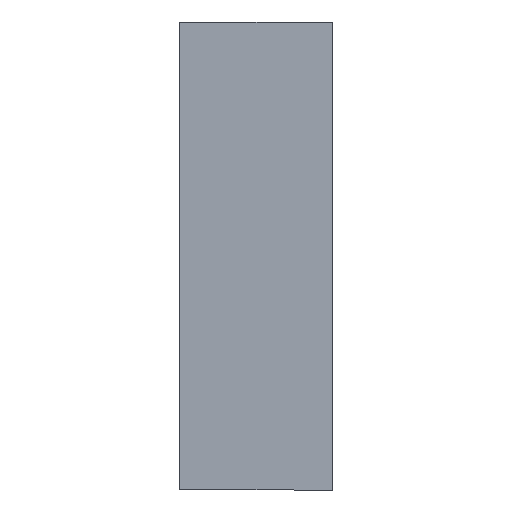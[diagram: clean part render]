
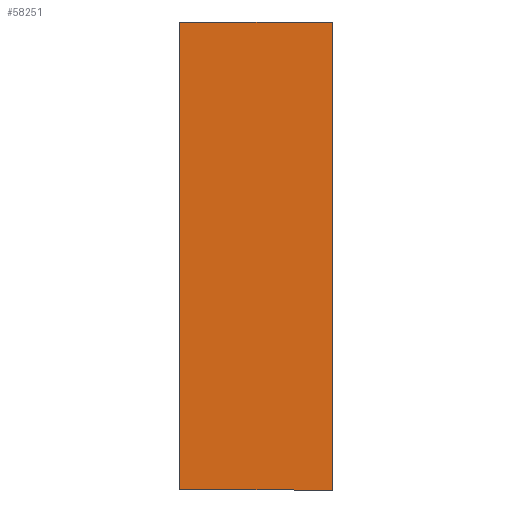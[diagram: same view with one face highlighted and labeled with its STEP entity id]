
A CAD part, left-side view. The second image highlights one B-rep face of the part: STEP entity #58251.
In plain terms, the highlighted planar face has unit normal (-1, 0, 0).
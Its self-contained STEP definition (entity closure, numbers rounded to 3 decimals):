
#58121 = EDGE_CURVE ( 'NONE', #58244, #58123, #123285, .T. ) ;
#58123 = VERTEX_POINT ( 'NONE', #123281 ) ;
#58124 = ORIENTED_EDGE ( 'NONE', *, *, #58250, .T. ) ;
#58125 = ORIENTED_EDGE ( 'NONE', *, *, #58127, .F. ) ;
#58127 = EDGE_CURVE ( 'NONE', #58128, #58248, #123280, .T. ) ;
#58128 = VERTEX_POINT ( 'NONE', #123276 ) ;
#58129 = ORIENTED_EDGE ( 'NONE', *, *, #58130, .F. ) ;
#58130 = EDGE_CURVE ( 'NONE', #58123, #58128, #123275, .T. ) ;
#58244 = VERTEX_POINT ( 'NONE', #123611 ) ;
#58248 = VERTEX_POINT ( 'NONE', #123606 ) ;
#58250 = EDGE_CURVE ( 'NONE', #58244, #58248, #123605, .T. ) ;
#58251 = ADVANCED_FACE ( 'NONE', ( #123598 ), #123597, .T. ) ;
#58253 = EDGE_LOOP ( 'NONE', ( #58255, #58124, #58125, #58129 ) ) ;
#58255 = ORIENTED_EDGE ( 'NONE', *, *, #58121, .F. ) ;
#123272 = DIRECTION ( 'NONE',  ( 0., -1., 0. ) ) ;
#123273 = VECTOR ( 'NONE', #123272, 39.37 ) ;
#123274 = CARTESIAN_POINT ( 'NONE',  ( -7.26, 18.243, 3.4 ) ) ;
#123275 = LINE ( 'NONE', #123274, #123273 ) ;
#123276 = CARTESIAN_POINT ( 'NONE',  ( -7.26, 0., 3.4 ) ) ;
#123277 = DIRECTION ( 'NONE',  ( 0., 0., -1. ) ) ;
#123278 = VECTOR ( 'NONE', #123277, 39.37 ) ;
#123279 = CARTESIAN_POINT ( 'NONE',  ( -7.26, 0., 3.4 ) ) ;
#123280 = LINE ( 'NONE', #123279, #123278 ) ;
#123281 = CARTESIAN_POINT ( 'NONE',  ( -7.26, 2.21, 3.4 ) ) ;
#123282 = DIRECTION ( 'NONE',  ( 0., 0., 1. ) ) ;
#123283 = VECTOR ( 'NONE', #123282, 39.37 ) ;
#123284 = CARTESIAN_POINT ( 'NONE',  ( -7.26, 2.21, 3.4 ) ) ;
#123285 = LINE ( 'NONE', #123284, #123283 ) ;
#123593 = DIRECTION ( 'NONE',  ( 0., 0., 1. ) ) ;
#123594 = DIRECTION ( 'NONE',  ( -1., 0., 0. ) ) ;
#123595 = CARTESIAN_POINT ( 'NONE',  ( -7.26, 18.243, 3.4 ) ) ;
#123596 = AXIS2_PLACEMENT_3D ( 'NONE', #123595, #123594, #123593 ) ;
#123597 = PLANE ( 'NONE',  #123596 ) ;
#123598 = FACE_OUTER_BOUND ( 'NONE', #58253, .T. ) ;
#123599 = DIRECTION ( 'NONE',  ( 0., -1., 0. ) ) ;
#123600 = VECTOR ( 'NONE', #123599, 39.37 ) ;
#123603 = CARTESIAN_POINT ( 'NONE',  ( -7.26, 18.243, -3.4 ) ) ;
#123605 = LINE ( 'NONE', #123603, #123600 ) ;
#123606 = CARTESIAN_POINT ( 'NONE',  ( -7.26, 0., -3.4 ) ) ;
#123611 = CARTESIAN_POINT ( 'NONE',  ( -7.26, 2.21, -3.4 ) ) ;
